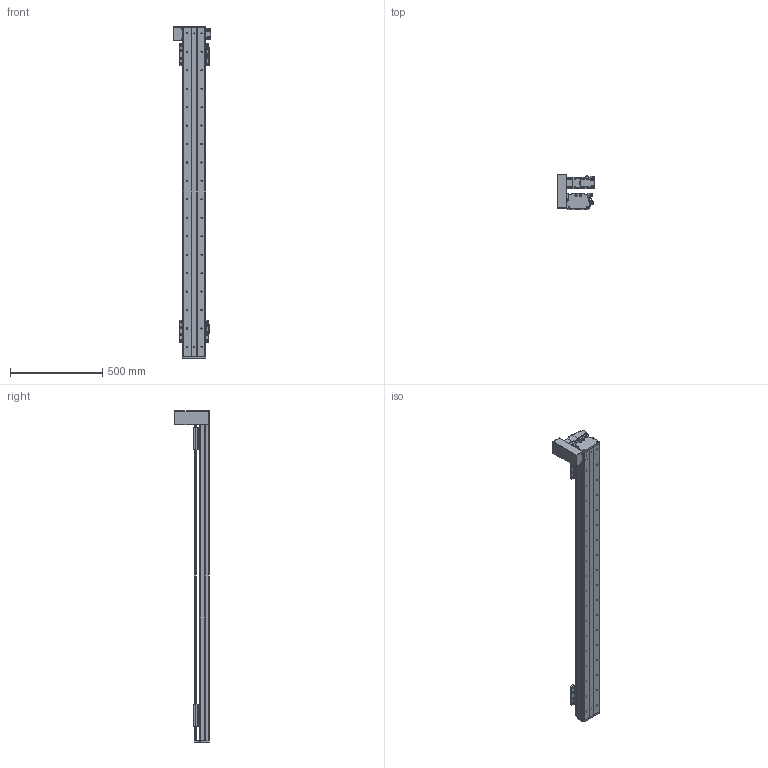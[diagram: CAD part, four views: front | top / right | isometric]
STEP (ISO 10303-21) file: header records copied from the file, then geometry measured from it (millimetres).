
FILE_DESCRIPTION(/* description */ (''),/* implementation_level */ '2;1');
FILE_NAME(/* name */ 'C:\Users\PC\Desktop\3D도면\STEP\DSB125-UL2G-W1500-R.stp',/* time_stamp */ '2018-06-19T00:45:33-07:00',/* author */ ('PC'),/* organization */ (''),/* preprocessor_version */ 'ST-DEVELOPER v16.5',/* originating_system */ 'Autodesk Inventor 2017',/* authorisation */ '');
FILE_SCHEMA (('AUTOMOTIVE_DESIGN { 1 0 10303 214 3 1 1 }'));
Length unit declared in the file: millimetre
Products named in the file (12): DSB125-L-300ST; DSR125-BASE(S-TYPE); DSR125-UP COVER-R01(170203); DSR125-REAR COVER-R01(170203); DSR125-REAR COVER-R01(170203)_1; hg-kr23_; ab0601-p0401200402; 13-BELT COVER; DSR126-SENSOR DOG; SENSOR BRACKET(EE-SX674A); pm-y65_step; DSR125-TABLE(MSA15X)
Assembly tree (16 placements, depth 2):
  DSB125-L-300ST
    DSR125-BASE(S-TYPE)
    DSR125-UP COVER-R01(170203)
    DSR125-REAR COVER-R01(170203)
    DSR125-REAR COVER-R01(170203)_1
    hg-kr23_
    ab0601-p0401200402
    13-BELT COVER
    DSR126-SENSOR DOG
    SENSOR BRACKET(EE-SX674A)  x3
    pm-y65_step  x3
    DSR125-TABLE(MSA15X)  x2
Bounding box: 202.1 x 187 x 1800 mm (x, y, z)
Volume: 6222243.4 mm3; surface area: 1790297.9 mm2
Topology: 17 solids, 22 shells, 1693 faces, 4581 edges, 3018 vertices
Faces by surface type: plane 908, cylinder 647, cone 126, sphere 8, torus 4
Full cylindrical faces by diameter (mm): 2.459 x20, 3.242 x16, 3.5 x6, 4 x1, 4.134 x16, 4.2 x4, 4.3 x1, 4.5 x50, 4.917 x20, 5 x27, 5.3 x1, 5.5 x4, 5.6 x8, 5.8 x4, 5.9 x8, 6 x4, 6.6 x22, 6.647 x36, 7.5 x32, 8.5 x8, 8.7 x1, 11 x22, 14 x1, 16 x2, 17 x1, 20 x1, 47 x1, 50 x3
Entity records: 35990 total; most frequent: CARTESIAN_POINT 6595, DIRECTION 6252, ORIENTED_EDGE 5542, EDGE_CURVE 2776, AXIS2_PLACEMENT_3D 2314, VERTEX_POINT 1985, EDGE_LOOP 1737, LINE 1624
